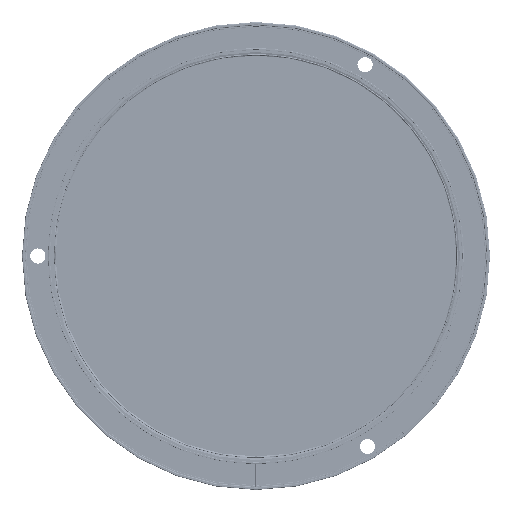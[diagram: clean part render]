
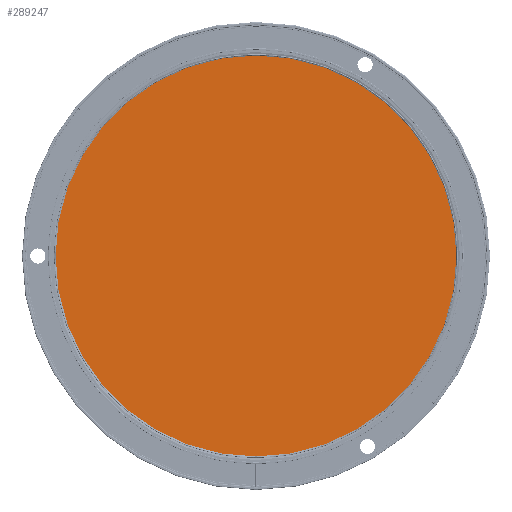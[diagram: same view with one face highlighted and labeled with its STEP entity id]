
A CAD part, front view. The second image highlights one B-rep face of the part: STEP entity #289247.
In plain terms, the highlighted planar face has unit normal (0, -1, 0).
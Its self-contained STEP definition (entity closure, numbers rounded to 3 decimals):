
#10156=PLANE('',#310845);
#85181=FACE_OUTER_BOUND('',#104896,.T.);
#104896=EDGE_LOOP('',(#204394));
#124719=CIRCLE('',#310843,257.043);
#133882=VERTEX_POINT('',#445632);
#160709=EDGE_CURVE('',#133882,#133882,#124719,.T.);
#204394=ORIENTED_EDGE('',*,*,#160709,.F.);
#289247=ADVANCED_FACE('',(#85181),#10156,.T.);
#310843=AXIS2_PLACEMENT_3D('',#445634,#346525,#346526);
#310845=AXIS2_PLACEMENT_3D('',#445636,#346529,#346530);
#346525=DIRECTION('center_axis',(0.,1.,0.));
#346526=DIRECTION('ref_axis',(1.,0.,0.));
#346529=DIRECTION('center_axis',(0.,-1.,0.));
#346530=DIRECTION('ref_axis',(0.,0.,-1.));
#445632=CARTESIAN_POINT('',(0.,32.962,-257.043));
#445634=CARTESIAN_POINT('Origin',(0.,32.962,0.));
#445636=CARTESIAN_POINT('Origin',(0.,32.962,257.043));
